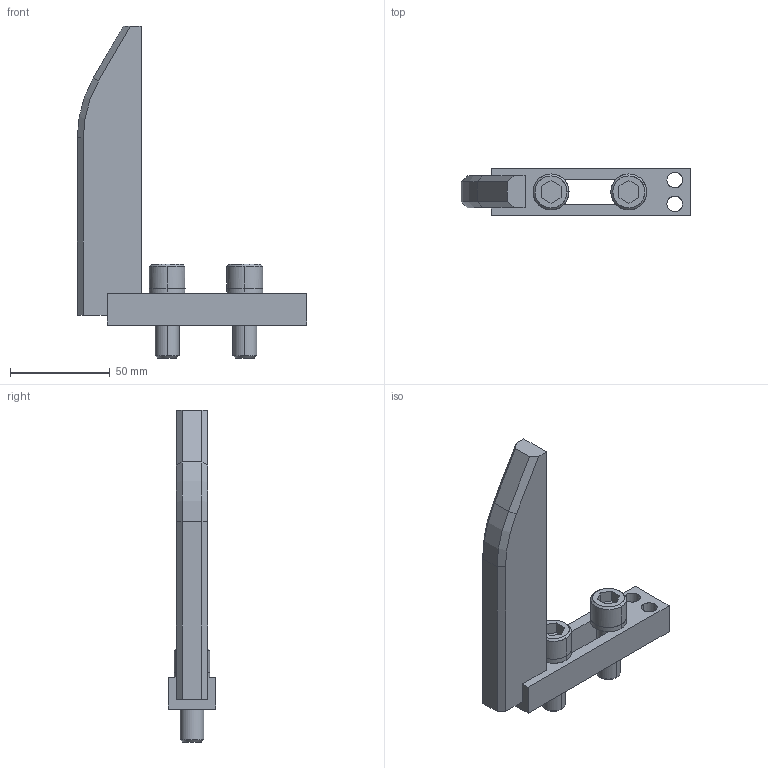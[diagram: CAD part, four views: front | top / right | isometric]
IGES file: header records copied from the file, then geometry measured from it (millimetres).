
Global section: file name: E:\UnigraphicsGraphicData\MISUMI_PRESS-PARTS\IGES\3d_ensta-150-40-m12_01416_r00.igs; native system: NX V5.0; preprocessor: UGS NX IGES V5.0; author: MISUMI; date: 20110105.160620; units: millimetre
Bounding box: 115 x 24 x 166.5 mm (x, y, z)
Surface area: 28191.5 mm2 (no closed solid volume)
Topology: 0 solids, 0 shells, 76 faces, 480 edges, 480 vertices
Faces by surface type: bspline 76
